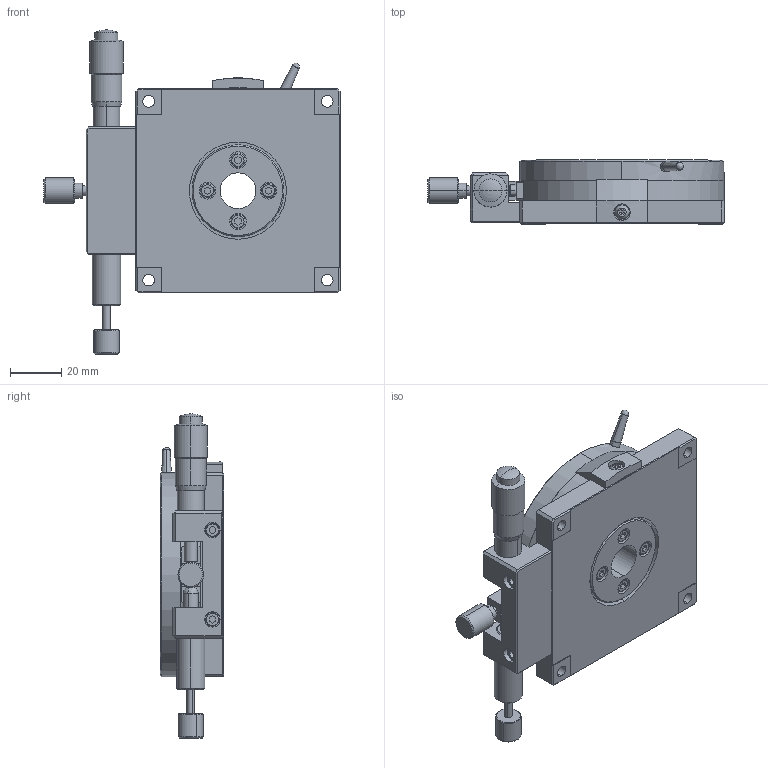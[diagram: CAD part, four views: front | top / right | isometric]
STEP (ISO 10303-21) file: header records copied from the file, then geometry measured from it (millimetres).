
FILE_DESCRIPTION (( 'STEP AP214' ), '1' );
FILE_NAME ('PR80-L.STEP', '2022-09-24T05:42:56', ( '' ), ( '' ), 'SwSTEP 2.0', 'SolidWorks 2017', '' );
FILE_SCHEMA (( 'AUTOMOTIVE_DESIGN' ));
Length unit declared in the file: millimetre
Products named in the file (7): RSP80L-3; RSP80L-1; RSP80L-2; RS90S-2; MT13-3-1; PR80-L; RS90S-1
Assembly tree (6 placements, depth 2):
  PR80-L
    RSP80L-3
    MT13-3-1
    RSP80L-2
    RSP80L-1
    RS90S-2
    RS90S-1
Bounding box: 116 x 25 x 127 mm (x, y, z)
Volume: 145339.5 mm3; surface area: 57727 mm2
Topology: 6 solids, 8 shells, 805 faces, 2063 edges, 1327 vertices
Faces by surface type: plane 429, bspline 155, cylinder 153, cone 47, torus 18, sphere 3
Entity records: 31124 total; most frequent: CARTESIAN_POINT 12122, ORIENTED_EDGE 4068, DIRECTION 3434, EDGE_CURVE 2034, VERTEX_POINT 1325, VECTOR 1294, LINE 1294, AXIS2_PLACEMENT_3D 1070
